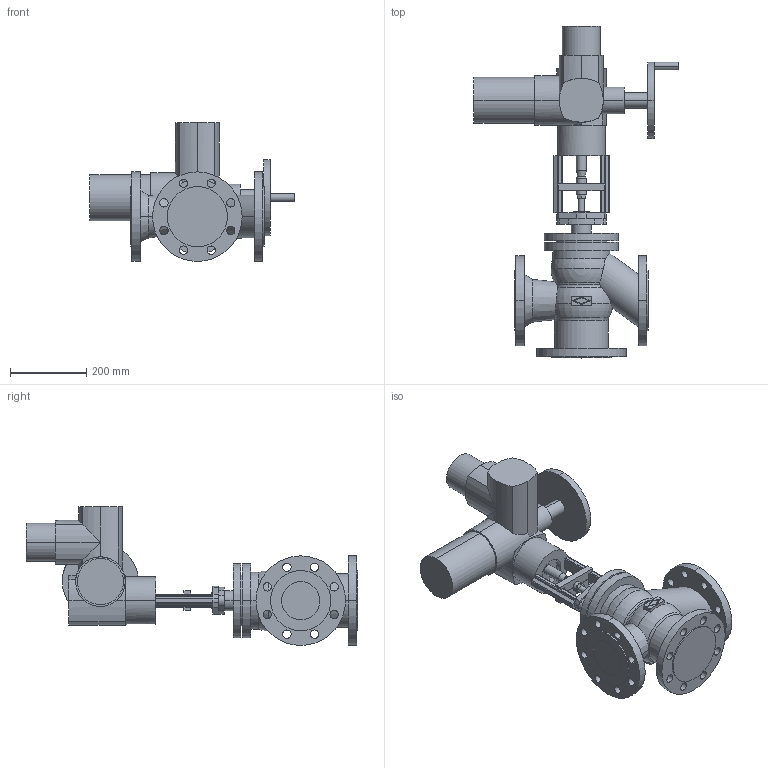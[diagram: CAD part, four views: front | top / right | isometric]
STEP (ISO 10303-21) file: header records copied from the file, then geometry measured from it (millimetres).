
FILE_DESCRIPTION(('OneSpaceDesigner STEP Export'),'2;1');
FILE_NAME('c000003178.stp','2007-01-24T11:02:58',(''),(''),'OneSpace Designer STEP processor for AP214 (Solid Model)','OneSpace Designer 14.00B 27-May-2006 (C) CoCreate Software GmbH','');
FILE_SCHEMA(('AUTOMOTIVE_DESIGN { 1 0 10303 214 1 1 1 1 }'));
Length unit declared in the file: millimetre
Products named in the file (2): 1; 2
Bounding box: 536 x 870.5 x 364.5 mm (x, y, z)
Volume: 21129928.8 mm3; surface area: 1092460.7 mm2
Topology: 2 solids, 2 shells, 309 faces, 801 edges, 510 vertices
Faces by surface type: cylinder 164, plane 123, torus 10, cone 8, sphere 4
Entity records: 8924 total; most frequent: CARTESIAN_POINT 1978, ORIENTED_EDGE 1594, DIRECTION 1248, EDGE_CURVE 797, VERTEX_POINT 510, AXIS2_PLACEMENT_3D 432, EDGE_LOOP 387, VECTOR 384
